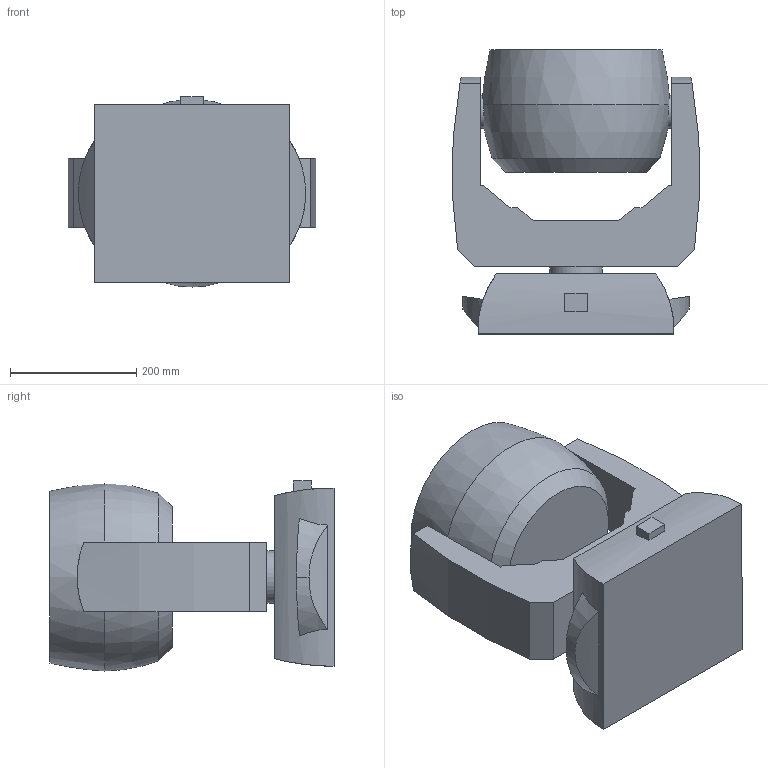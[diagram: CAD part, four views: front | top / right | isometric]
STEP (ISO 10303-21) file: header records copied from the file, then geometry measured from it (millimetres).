
FILE_DESCRIPTION(/* description */ (''),/* implementation_level */ '2;1');
FILE_NAME(/* name */ 'C:\Users\dgooch\Documents\CADENG\PRO\Rogue R3X Wash\Rogue R3X Wash_3D_CAD\Rogue R3X Wash_0.stp',/* time_stamp */ '2022-03-28T09:34:13-04:00',/* author */ ('dgooch'),/* organization */ (''),/* preprocessor_version */ 'ST-DEVELOPER v18.1',/* originating_system */ 'Autodesk Inventor 2022',/* authorisation */ '');
FILE_SCHEMA (('AUTOMOTIVE_DESIGN { 1 0 10303 214 3 1 1 }'));
Length unit declared in the file: millimetre
Products named in the file (4): Rogue R3X Wash; Head (1); Arm (1); Base (1)
Assembly tree (3 placements, depth 2):
  Rogue R3X Wash
    Head (1)
    Arm (1)
    Base (1)
Bounding box: 392.23 x 450.4 x 301.55 mm (x, y, z)
Volume: 25496233.3 mm3; surface area: 943358.9 mm2
Topology: 3 solids, 3 shells, 52 faces, 124 edges, 82 vertices
Faces by surface type: plane 30, cylinder 19, bspline 2, cone 1
Full cylindrical faces by diameter (mm): 52 x2, 83 x2, 260.299 x1
Entity records: 1982 total; most frequent: CARTESIAN_POINT 615, ORIENTED_EDGE 248, DIRECTION 246, EDGE_CURVE 124, AXIS2_PLACEMENT_3D 85, VERTEX_POINT 82, LINE 76, VECTOR 76
